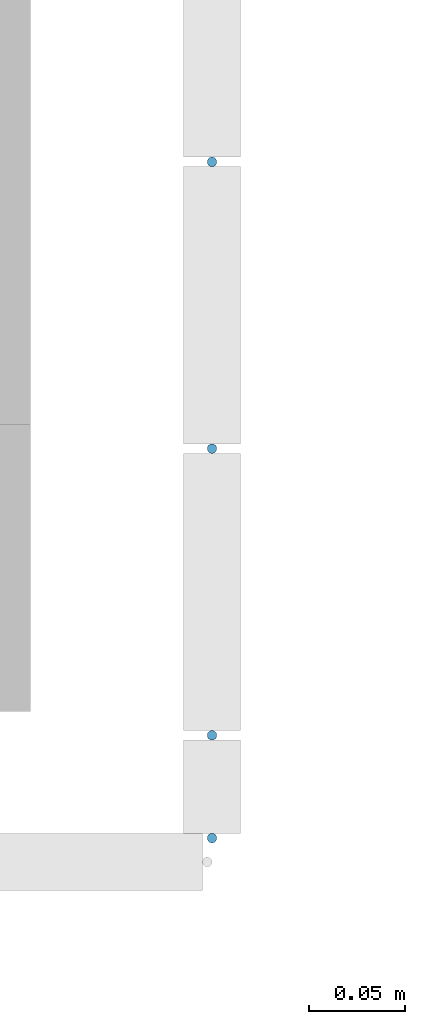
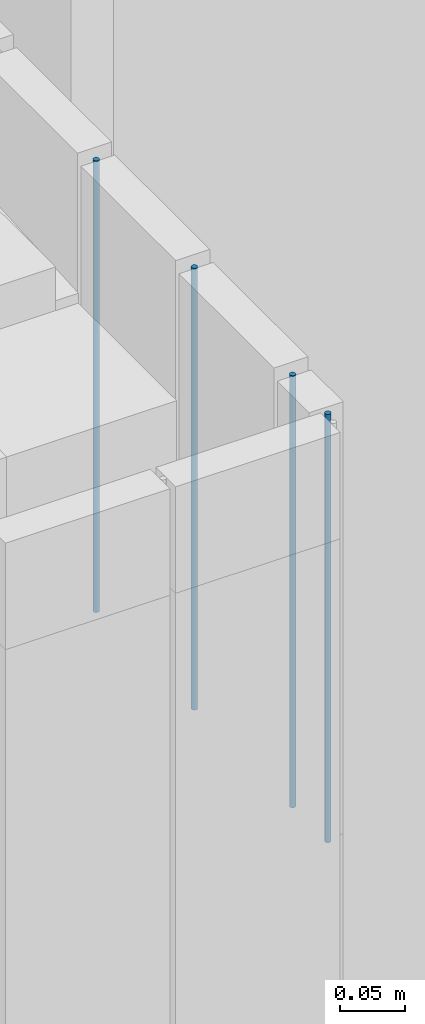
# One storey, part 56 of 81: 4 members, 1 element without a shape of its own.
"""IFC2X3 building model written with IfcOpenShell, lengths in metres."""

from ifc_helpers import new_model, entity, si_unit, converted_unit, derived_unit, direction, frame, frame_2d, origin, place, context, subcontext, project, spatial, circle, extrude, source, transform, mapped, material, type_object, type_shapes, element, aggregate, save


model = new_model("IFC2X3")

# Units and contexts
model_context = context("Model", 3, precision=1e-05, world=origin(), true_north=direction((6.12303176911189e-17, 1.0)))
body_context = subcontext(model_context, "Body", "Model", "MODEL_VIEW")
ifc_project = project(units=[si_unit("LENGTHUNIT", "METRE"), si_unit("AREAUNIT", "SQUARE_METRE"), si_unit("VOLUMEUNIT", "CUBIC_METRE"), converted_unit("PLANEANGLEUNIT", "DEGREE", entity("IfcRatioMeasure", 0.0174532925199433), si_unit("PLANEANGLEUNIT", "RADIAN"), dimensions=[0, 0, 0, 0, 0, 0, 0]), si_unit("MASSUNIT", "GRAM", prefix="KILO"), derived_unit("MASSDENSITYUNIT", [(si_unit("MASSUNIT", "GRAM", prefix="KILO"), 1), (si_unit("LENGTHUNIT", "METRE"), -3)]), derived_unit("MOMENTOFINERTIAUNIT", [(si_unit("LENGTHUNIT", "METRE"), 4)]), si_unit("TIMEUNIT", "SECOND"), si_unit("FREQUENCYUNIT", "HERTZ"), si_unit("THERMODYNAMICTEMPERATUREUNIT", "DEGREE_CELSIUS"), derived_unit("THERMALTRANSMITTANCEUNIT", [(si_unit("MASSUNIT", "GRAM", prefix="KILO"), 1), (si_unit("THERMODYNAMICTEMPERATUREUNIT", "KELVIN"), -1), (si_unit("TIMEUNIT", "SECOND"), -3)]), derived_unit("VOLUMETRICFLOWRATEUNIT", [(si_unit("LENGTHUNIT", "METRE"), 3), (si_unit("TIMEUNIT", "SECOND"), -1)]), si_unit("ELECTRICCURRENTUNIT", "AMPERE"), si_unit("ELECTRICVOLTAGEUNIT", "VOLT"), si_unit("POWERUNIT", "WATT"), si_unit("FORCEUNIT", "NEWTON", prefix="KILO"), si_unit("ILLUMINANCEUNIT", "LUX"), si_unit("LUMINOUSFLUXUNIT", "LUMEN"), si_unit("LUMINOUSINTENSITYUNIT", "CANDELA"), derived_unit("USERDEFINED", [(si_unit("MASSUNIT", "GRAM", prefix="KILO"), -1), (si_unit("LENGTHUNIT", "METRE"), -2), (si_unit("TIMEUNIT", "SECOND"), 3), (si_unit("LUMINOUSFLUXUNIT", "LUMEN"), 1)]), derived_unit("LINEARVELOCITYUNIT", [(si_unit("LENGTHUNIT", "METRE"), 1), (si_unit("TIMEUNIT", "SECOND"), -1)]), si_unit("PRESSUREUNIT", "PASCAL"), derived_unit("USERDEFINED", [(si_unit("LENGTHUNIT", "METRE"), -2), (si_unit("MASSUNIT", "GRAM", prefix="KILO"), 1), (si_unit("TIMEUNIT", "SECOND"), -2)]), derived_unit("LINEARFORCEUNIT", [(si_unit("MASSUNIT", "GRAM", prefix="KILO"), 1), (si_unit("LENGTHUNIT", "METRE"), 1), (si_unit("TIMEUNIT", "SECOND"), -2), (si_unit("LENGTHUNIT", "METRE"), -1)]), derived_unit("PLANARFORCEUNIT", [(si_unit("MASSUNIT", "GRAM", prefix="KILO"), 1), (si_unit("LENGTHUNIT", "METRE"), 1), (si_unit("TIMEUNIT", "SECOND"), -2), (si_unit("LENGTHUNIT", "METRE"), -2)])], contexts=[model_context])

# Site, building, storey
site_placement = place(None, origin())
site = spatial("IfcSite", under=ifc_project, at=site_placement, Name="Surface", CompositionType="ELEMENT")
building_placement = place(site_placement, origin())
building = spatial("IfcBuilding", under=site, at=building_placement, CompositionType="ELEMENT")
storey_placement = place(building_placement, origin())
storey = spatial("IfcBuildingStorey", under=building, at=storey_placement, Name="01 RDC", CompositionType="ELEMENT", Elevation=-1.94916083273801e-14)

# Curtain wall, members
curtain_wall_type = type_object("IfcCurtainWallType", Name="Mur-rideau:1m x 2m", PredefinedType="NOTDEFINED")
curtain_wall_placement = place(storey_placement, origin())
curtain_wall = element("IfcCurtainWall", 1, at=curtain_wall_placement, inside=storey, type_object=curtain_wall_type, Name="Mur-rideau:1m x 2m", ObjectType="Mur-rideau:1m x 2m")
ifc_material = material(Name="Aluminium - Vert")
member_type_1 = type_object("IfcMemberType", Name="Meneau circulaire:R-30 mm", PredefinedType="MULLION", material=ifc_material)
shared_shape_1 = source(origin(), body_context, "Body", "SweptSolid", [
    extrude(circle(Radius=0.0025, at=frame_2d((-1.17965647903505e-32, 3.7744895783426e-18), x_axis=(1.0, 0.0))), frame((-0.0025, 0.0, -0.399225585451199), z_axis=(0.0, 0.0, 1.0), x_axis=(-1.0, 0.0, 0.0)), (0.0, 0.0, 1.0), 0.399225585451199),
])
type_shapes(member_type_1, [shared_shape_1])
member_1_placement = place(storey_placement, frame((8.02156158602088, -6.29971095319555, 2.0), z_axis=(0.0, 0.0, -1.0), x_axis=(0.0, -1.0, 0.0)))
member_1 = element("IfcMember", 2, at=member_1_placement, type_object=member_type_1, material=ifc_material, Name="Meneau circulaire:R-30 mm", ObjectType="Meneau circulaire:R-30 mm", context=body_context, shape_type="MappedRepresentation", body=[
    mapped(shared_shape_1, transform((0.0, 0.0, 0.0), scale=1.0)),
])
member_type_2 = type_object("IfcMemberType", Name="Meneau circulaire:R-30 mm", PredefinedType="MULLION", material=ifc_material)
shared_shape_2 = source(origin(), body_context, "Body", "SweptSolid", [
    extrude(circle(Radius=0.0025, at=frame_2d((-1.30499213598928e-32, 4.03886143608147e-18), x_axis=(1.0, 0.0))), frame((0.0, 0.0, -0.421014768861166), z_axis=(0.0, 0.0, 1.0), x_axis=(-1.0, 0.0, 0.0)), (0.0, 0.0, 1.0), 0.421014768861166),
])
type_shapes(member_type_2, [shared_shape_2])
member_2_placement = place(storey_placement, frame((8.02156158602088, -5.94346095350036, 2.0), z_axis=(0.0, 0.0, -1.0), x_axis=(0.0, -1.0, 0.0)))
member_2 = element("IfcMember", 3, at=member_2_placement, type_object=member_type_2, material=ifc_material, Name="Meneau circulaire:R-30 mm", ObjectType="Meneau circulaire:R-30 mm", context=body_context, shape_type="MappedRepresentation", body=[
    mapped(shared_shape_2, transform((0.0, 0.0, 0.0), scale=1.0)),
])
member_type_3 = type_object("IfcMemberType", Name="Meneau circulaire:R-30 mm", PredefinedType="MULLION", material=ifc_material)
shared_shape_3 = source(origin(), body_context, "Body", "SweptSolid", [
    extrude(circle(Radius=0.0025, at=frame_2d((-1.30499213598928e-32, 4.03886143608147e-18), x_axis=(1.0, 0.0))), frame((0.0, 0.0, -0.411840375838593), z_axis=(0.0, 0.0, 1.0), x_axis=(-1.0, 0.0, 0.0)), (0.0, 0.0, 1.0), 0.411840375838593),
])
type_shapes(member_type_3, [shared_shape_3])
member_3_placement = place(storey_placement, frame((8.02156158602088, -6.09346095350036, 2.0), z_axis=(0.0, 0.0, -1.0), x_axis=(0.0, -1.0, 0.0)))
member_3 = element("IfcMember", 4, at=member_3_placement, type_object=member_type_3, material=ifc_material, Name="Meneau circulaire:R-30 mm", ObjectType="Meneau circulaire:R-30 mm", context=body_context, shape_type="MappedRepresentation", body=[
    mapped(shared_shape_3, transform((0.0, 0.0, 0.0), scale=1.0)),
])
member_type_4 = type_object("IfcMemberType", Name="Meneau circulaire:R-30 mm", PredefinedType="MULLION", material=ifc_material)
shared_shape_4 = source(origin(), body_context, "Body", "SweptSolid", [
    extrude(circle(Radius=0.0025, at=frame_2d((-1.30499213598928e-32, 4.03886143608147e-18), x_axis=(1.0, 0.0))), frame((0.0, 0.0, -0.40266598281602), z_axis=(0.0, 0.0, 1.0), x_axis=(-1.0, 0.0, 0.0)), (0.0, 0.0, 1.0), 0.40266598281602),
])
type_shapes(member_type_4, [shared_shape_4])
member_4_placement = place(storey_placement, frame((8.02156158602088, -6.24346095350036, 2.0), z_axis=(0.0, 0.0, -1.0), x_axis=(0.0, -1.0, 0.0)))
member_4 = element("IfcMember", 5, at=member_4_placement, type_object=member_type_4, material=ifc_material, Name="Meneau circulaire:R-30 mm", ObjectType="Meneau circulaire:R-30 mm", context=body_context, shape_type="MappedRepresentation", body=[
    mapped(shared_shape_4, transform((0.0, 0.0, 0.0), scale=1.0)),
])
aggregate(curtain_wall, [member_1, member_2, member_3, member_4])

save(model, "model.ifc")
